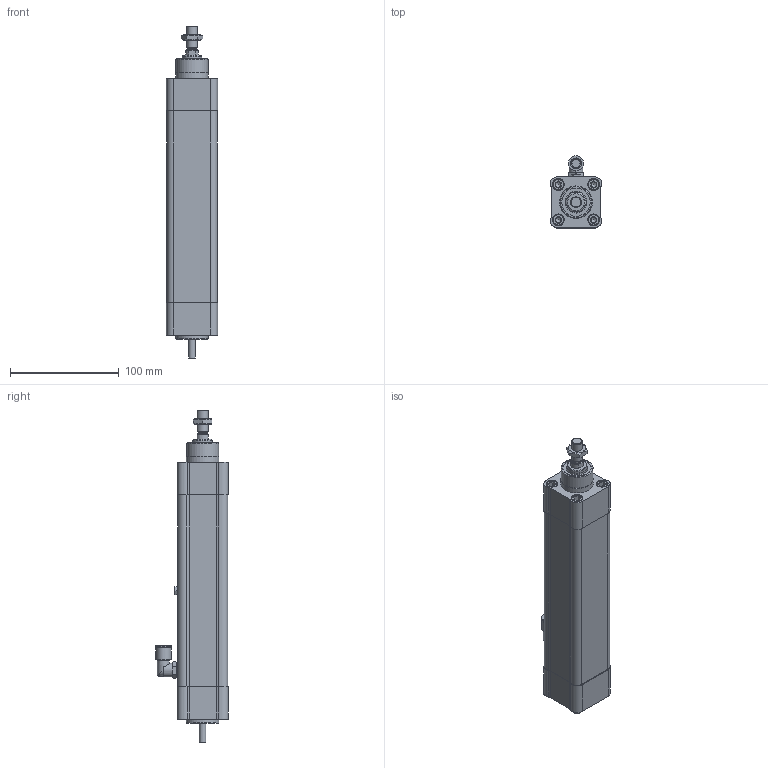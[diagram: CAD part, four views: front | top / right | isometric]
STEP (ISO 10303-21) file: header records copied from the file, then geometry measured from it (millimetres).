
FILE_DESCRIPTION(/* description */ ('STEP AP203'),/* implementation_level */ '2;1');
FILE_NAME(/* name */ 'PNCE 32 BS 1205 100 IP65CR(0)',/* time_stamp */ '2025-09-29T15:46:34+02:00',/* author */ ('License CC BY-ND 4.0'),/* organization */ ('CADENAS'),/* preprocessor_version */ 'ST-DEVELOPER v19.3',/* originating_system */ 'PARTsolutions',/* authorisation */ ' ');
FILE_SCHEMA (('CONFIG_CONTROL_DESIGN'));
Length unit declared in the file: millimetre
Products named in the file (6): PNCE 32 BS 1205 100 IP65CR(0); PNCE 32_drive cap; PNCE 32 100 IP65CR(0)_cylinder profil; PNCE 32_front cap; PNCE 32 100 IP65CR 0_piston rod; PNCE 32_nut
Assembly tree (5 placements, depth 2):
  PNCE 32 BS 1205 100 IP65CR(0)
    PNCE 32_drive cap
    PNCE 32 100 IP65CR(0)_cylinder profil
    PNCE 32_front cap
    PNCE 32 100 IP65CR 0_piston rod
    PNCE 32_nut
Bounding box: 46.97 x 66.5 x 305 mm (x, y, z)
Volume: 434278.4 mm3; surface area: 120942.7 mm2
Topology: 5 solids, 5 shells, 312 faces, 684 edges, 443 vertices
Faces by surface type: plane 161, cylinder 100, cone 45, torus 5, sphere 1
Full cylindrical faces by diameter (mm): 4.917 x8, 5 x4, 6 x9, 6.7 x4, 8 x2, 8.376 x1, 8.4 x1, 10 x10, 11 x9, 12.5 x2, 14 x2, 17.8 x1, 18 x2, 19 x1, 20 x1, 22 x1, 26 x1, 29.5 x1, 30 x3, 31.5 x1, 32.5 x3
Entity records: 10091 total; most frequent: CARTESIAN_POINT 1527, DIRECTION 1386, ORIENTED_EDGE 1124, AXIS2_PLACEMENT_3D 564, EDGE_CURVE 562, FACE_BOUND 489, EDGE_LOOP 481, VERTEX_POINT 431
